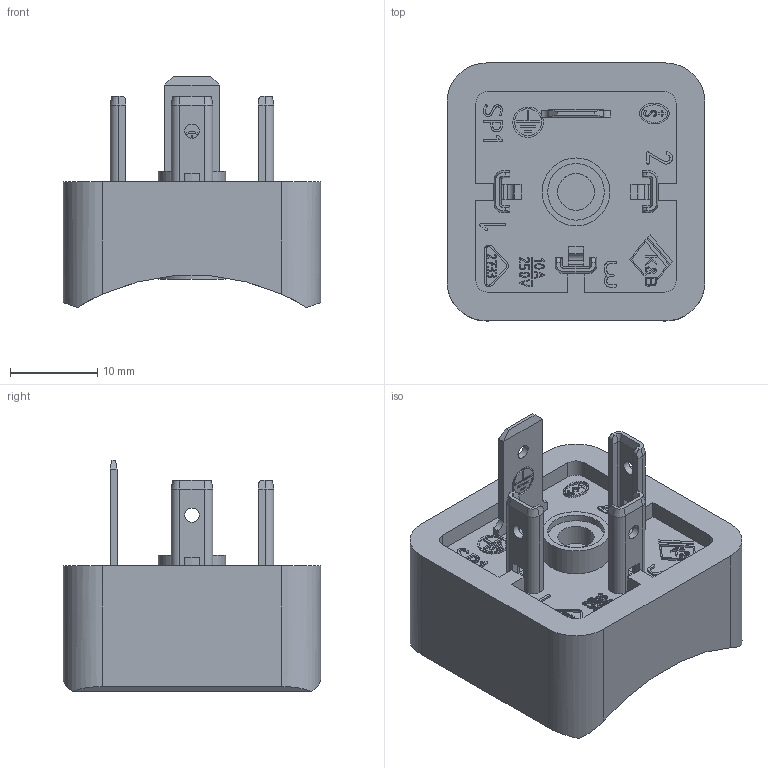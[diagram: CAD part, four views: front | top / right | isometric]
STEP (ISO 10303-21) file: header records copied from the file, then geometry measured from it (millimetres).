
FILE_DESCRIPTION(/* description */ (''),/* implementation_level */ '2;1');
FILE_NAME(/* name */ '43-1719-024-04_001-Gerätestecker.stp',/* time_stamp */ '2017-12-15T10:37:41+01:00',/* author */ (''),/* organization */ (''),/* preprocessor_version */ 'ST-DEVELOPER v16',/* originating_system */ 'SIEMENS PLM Software NX 11.0',/* authorisation */ '');
FILE_SCHEMA (('AUTOMOTIVE_DESIGN { 1 0 10303 214 3 1 1 1 }'));
Length unit declared in the file: millimetre
Products named in the file (1): mfur0C78FC40zvfa
Bounding box: 29.6 x 29.6 x 26.56 mm (x, y, z)
Volume: 5926.3 mm3; surface area: 5483.8 mm2
Topology: 1 solids, 1 shells, 782 faces, 2058 edges, 1349 vertices
Faces by surface type: plane 455, extrusion 181, cylinder 118, cone 12, torus 7, bspline 5, sphere 4
Full cylindrical faces by diameter (mm): 1.65 x4, 1.7 x1, 2 x1, 3.1 x2, 3.2 x1, 3.5 x1, 4.2 x2, 6.5 x1, 7.8 x2
Entity records: 26294 total; most frequent: CARTESIAN_POINT 7891, ORIENTED_EDGE 4072, DIRECTION 3107, EDGE_CURVE 2036, VECTOR 1383, VERTEX_POINT 1348, LINE 1202, EDGE_LOOP 890
